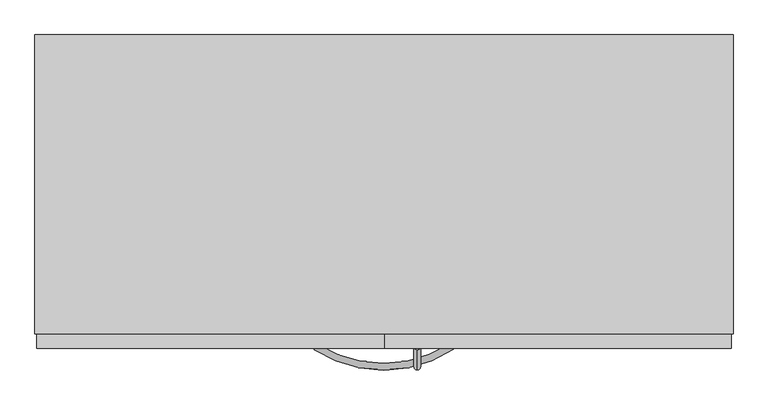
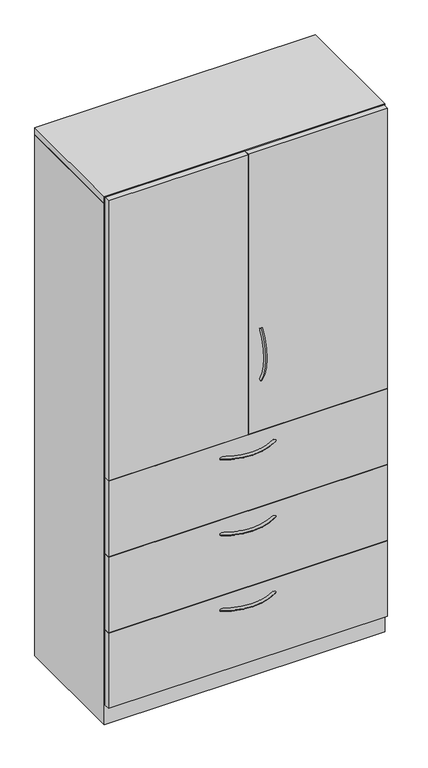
"""IFC4 building model written with IfcOpenShell, lengths in millimetres: furniture geometry, Steelcase - Universal Storage - Cabinet - Combination - Proud Steel : 83 1/2H - Hinged Doors/3 Drawers - 18 7/8D x 42W."""

from ifc_helpers import new_model, si_unit, point, frame, origin, place, context, project, spatial, polyline, circle_curve, ellipse_curve, trimmed, outline, extrude, faceted_brep, source, transform, mapped, element, save
from ifc_brep_helpers import plane_surface, revolved_surface, advanced_brep


def furniture_3395a8f8(model_context):
    return source(origin(), model_context, "Body", "SolidModel", [
        extrude(outline(polyline([(1063.6225413, -479.552), (3.1725353, -479.552), (3.1725353, -457.3261219), (1063.6225413, -457.3261219), (1063.6225413, -479.552)])), frame((0.0, 0.0, 77.724), z_axis=(0.0, 0.0, 1.0), x_axis=(1.0, 0.0, 0.0)), (0.0, 0.0, 1.0), 303.276),
        extrude(outline(polyline([(1063.6225413, -479.552), (3.1725353, -479.552), (3.1725353, -457.3261219), (1063.6225413, -457.3261219), (1063.6225413, -479.552)])), frame((0.0, 0.0, 382.524), z_axis=(0.0, 0.0, 1.0), x_axis=(1.0, 0.0, 0.0)), (0.0, 0.0, 1.0), 303.276),
        extrude(outline(polyline([(1063.6225413, -479.552), (3.1725353, -479.552), (3.1725353, -457.3261219), (1063.6225413, -457.3261219), (1063.6225413, -479.552)])), frame((0.0, 0.0, 687.3240349), z_axis=(0.0, 0.0, 1.0), x_axis=(1.0, 0.0, 0.0)), (0.0, 0.0, 1.0), 303.2759651),
        extrude(outline(polyline([(533.4, -479.552), (3.1725353, -479.552), (3.1725353, -457.3261219), (533.4, -457.3261219), (533.4, -479.552)])), frame((0.0, 0.0, 992.5062596), z_axis=(0.0, 0.0, 1.0), x_axis=(1.0, 0.0, 0.0)), (0.0, 0.0, 1.0), 1125.22),
        extrude(outline(polyline([(1063.6225413, -479.552), (534.9239992, -479.552), (534.9239992, -457.3261219), (1063.6225413, -457.3261219), (1063.6225413, -479.552)])), frame((0.0, 0.0, 992.5062596), z_axis=(0.0, 0.0, 1.0), x_axis=(1.0, 0.0, 0.0)), (0.0, 0.0, 1.0), 1125.22),
        advanced_brep(
        [(584.1682496, -481.5705994, 1404.643666), (584.1682496, -473.0108019, 1399.1705073), (584.1682496, -481.1337636, 1192.3367456), (584.1682496, -472.5965612, 1197.8450825)],
        [
            (0, 1, circle_curve(frame((584.1682496, -477.2907007, 1401.9070866), z_axis=(0.0, 0.5386967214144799, 0.842499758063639), x_axis=(0.0, 0.842499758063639, -0.5386967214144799)), 5.08)),
            (1, 0, circle_curve(frame((584.1682496, -477.2907007, 1401.9070866), z_axis=(0.0, 0.5386967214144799, 0.842499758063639), x_axis=(0.0, 0.842499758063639, -0.5386967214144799)), 5.08)),
            (2, 3, circle_curve(frame((584.1682496, -476.8651624, 1195.0909141), z_axis=(0.0, 0.5421591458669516, -0.8402758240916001), x_axis=(0.0, 0.8402758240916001, 0.5421591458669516)), 5.08)),
            (3, 2, circle_curve(frame((584.1682496, -476.8651624, 1195.0909141), z_axis=(0.0, 0.5421591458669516, -0.8402758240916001), x_axis=(0.0, 0.8402758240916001, 0.5421591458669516)), 5.08)),
            (3, 1, circle_curve(frame((584.1682496, -316.0827352, 1298.8302589), z_axis=(-1.0, 0.0, 0.0), x_axis=(0.0, -0.8424997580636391, 0.5386967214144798)), 186.2648211)),
            (0, 2, circle_curve(frame((584.1682496, -316.0827352, 1298.8302589), z_axis=(1.0, 0.0, 0.0), x_axis=(0.0, -0.8424997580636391, 0.5386967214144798)), 196.4248211)),
        ],
        [
            plane_surface(frame((584.9619996, -476.6365286, 1401.4888072), z_axis=(0.0, 0.5386967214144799, 0.8424997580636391), x_axis=(1.0, 0.0, 0.0))),
            plane_surface(frame((584.9619996, -476.2127171, 1195.511882), z_axis=(0.0, 0.5421591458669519, -0.8402758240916), x_axis=(1.0, 0.0, 0.0))),
            revolved_surface(trimmed(ellipse_curve(frame((584.1682496, -477.2907007, 1401.9070866), z_axis=(0.0, 0.5386967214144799, 0.842499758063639), x_axis=(0.0, 0.842499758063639, -0.5386967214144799)), 5.08, 5.08), [point((584.1682496, -481.5705994, 1404.643666))], [point((584.1682496, -473.0108019, 1399.1705073))], True, "CARTESIAN"), (584.9619996, -316.0827352, 1298.8302589), (1.0, 0.0, 0.0)),
            revolved_surface(trimmed(ellipse_curve(frame((584.1682496, -477.2907007, 1401.9070866), z_axis=(0.0, 0.5386967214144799, 0.842499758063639), x_axis=(0.0, 0.842499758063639, -0.5386967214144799)), 5.08, 5.08), [point((584.1682496, -473.0108019, 1399.1705073))], [point((584.1682496, -481.5705994, 1404.643666))], True, "CARTESIAN"), (584.9619996, -316.0827352, 1298.8302589), (1.0, 0.0, 0.0)),
        ],
        [
            (0, [[1, 2]]),
            (1, [[3, 4]]),
            (2, [[5, -1, 6, -4]]),
            (3, [[-6, -2, -5, -3]]),
        ],
    ),
        advanced_brep(
        [(426.8245932, -481.5705994, 323.56425), (432.2977519, -473.0108019, 323.56425), (639.1315136, -481.1337636, 323.56425), (633.6231767, -472.5965612, 323.56425)],
        [
            (0, 1, circle_curve(frame((429.5611726, -477.2907007, 323.56425), z_axis=(-0.8424997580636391, 0.5386967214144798, 0.0), x_axis=(0.5386967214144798, 0.8424997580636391, 0.0)), 5.08)),
            (1, 0, circle_curve(frame((429.5611726, -477.2907007, 323.56425), z_axis=(-0.8424997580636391, 0.5386967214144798, 0.0), x_axis=(0.5386967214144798, 0.8424997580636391, 0.0)), 5.08)),
            (2, 3, circle_curve(frame((636.3773452, -476.8651624, 323.56425), z_axis=(0.8402758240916, 0.5421591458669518, 0.0), x_axis=(-0.5421591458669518, 0.8402758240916, 0.0)), 5.08)),
            (3, 2, circle_curve(frame((636.3773452, -476.8651624, 323.56425), z_axis=(0.8402758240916, 0.5421591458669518, 0.0), x_axis=(-0.5421591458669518, 0.8402758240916, 0.0)), 5.08)),
            (3, 1, circle_curve(frame((532.6380004, -316.0827352, 323.56425), z_axis=(0.0, 0.0, -1.0), x_axis=(-0.5386967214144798, -0.8424997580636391, 0.0)), 186.2648211)),
            (0, 2, circle_curve(frame((532.6380004, -316.0827352, 323.56425), z_axis=(0.0, 0.0, 1.0), x_axis=(-0.5386967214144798, -0.8424997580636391, 0.0)), 196.4248211)),
        ],
        [
            plane_surface(frame((429.9794521, -476.6365286, 324.358), z_axis=(-0.8424997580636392, 0.5386967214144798, 0.0), x_axis=(0.0, 0.0, 1.0))),
            plane_surface(frame((635.9563772, -476.2127171, 324.358), z_axis=(0.8402758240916, 0.5421591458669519, 0.0), x_axis=(0.0, 0.0, 1.0))),
            revolved_surface(trimmed(ellipse_curve(frame((429.5611726, -477.2907007, 323.56425), z_axis=(-0.8424997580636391, 0.5386967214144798, 0.0), x_axis=(0.5386967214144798, 0.8424997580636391, 0.0)), 5.08, 5.08), [point((426.8245932, -481.5705994, 323.56425))], [point((432.2977519, -473.0108019, 323.56425))], True, "CARTESIAN"), (532.6380004, -316.0827352, 324.358), (0.0, 0.0, 1.0)),
            revolved_surface(trimmed(ellipse_curve(frame((429.5611726, -477.2907007, 323.56425), z_axis=(-0.8424997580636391, 0.5386967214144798, 0.0), x_axis=(0.5386967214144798, 0.8424997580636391, 0.0)), 5.08, 5.08), [point((432.2977519, -473.0108019, 323.56425))], [point((426.8245932, -481.5705994, 323.56425))], True, "CARTESIAN"), (532.6380004, -316.0827352, 324.358), (0.0, 0.0, 1.0)),
        ],
        [
            (0, [[1, 2]]),
            (1, [[3, 4]]),
            (2, [[5, -1, 6, -4]]),
            (3, [[-6, -2, -5, -3]]),
        ],
    ),
        advanced_brep(
        [(426.8245932, -481.5705994, 627.85625), (432.2977519, -473.0108019, 627.85625), (639.1315136, -481.1337636, 627.85625), (633.6231767, -472.5965612, 627.85625)],
        [
            (0, 1, circle_curve(frame((429.5611726, -477.2907007, 627.85625), z_axis=(-0.8424997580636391, 0.5386967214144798, 0.0), x_axis=(0.5386967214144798, 0.8424997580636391, 0.0)), 5.08)),
            (1, 0, circle_curve(frame((429.5611726, -477.2907007, 627.85625), z_axis=(-0.8424997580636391, 0.5386967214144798, 0.0), x_axis=(0.5386967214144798, 0.8424997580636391, 0.0)), 5.08)),
            (2, 3, circle_curve(frame((636.3773452, -476.8651624, 627.85625), z_axis=(0.8402758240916, 0.5421591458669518, 0.0), x_axis=(-0.5421591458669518, 0.8402758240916, 0.0)), 5.08)),
            (3, 2, circle_curve(frame((636.3773452, -476.8651624, 627.85625), z_axis=(0.8402758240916, 0.5421591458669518, 0.0), x_axis=(-0.5421591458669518, 0.8402758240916, 0.0)), 5.08)),
            (3, 1, circle_curve(frame((532.6380004, -316.0827352, 627.85625), z_axis=(0.0, 0.0, -1.0), x_axis=(-0.5386967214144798, -0.8424997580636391, 0.0)), 186.2648211)),
            (0, 2, circle_curve(frame((532.6380004, -316.0827352, 627.85625), z_axis=(0.0, 0.0, 1.0), x_axis=(-0.5386967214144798, -0.8424997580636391, 0.0)), 196.4248211)),
        ],
        [
            plane_surface(frame((429.9794521, -476.6365286, 628.65), z_axis=(-0.8424997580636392, 0.5386967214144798, 0.0), x_axis=(0.0, 0.0, 1.0))),
            plane_surface(frame((635.9563772, -476.2127171, 628.65), z_axis=(0.8402758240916, 0.5421591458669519, 0.0), x_axis=(0.0, 0.0, 1.0))),
            revolved_surface(trimmed(ellipse_curve(frame((429.5611726, -477.2907007, 627.85625), z_axis=(-0.8424997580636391, 0.5386967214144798, 0.0), x_axis=(0.5386967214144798, 0.8424997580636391, 0.0)), 5.08, 5.08), [point((426.8245932, -481.5705994, 627.85625))], [point((432.2977519, -473.0108019, 627.85625))], True, "CARTESIAN"), (532.6380004, -316.0827352, 628.65), (0.0, 0.0, 1.0)),
            revolved_surface(trimmed(ellipse_curve(frame((429.5611726, -477.2907007, 627.85625), z_axis=(-0.8424997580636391, 0.5386967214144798, 0.0), x_axis=(0.5386967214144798, 0.8424997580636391, 0.0)), 5.08, 5.08), [point((432.2977519, -473.0108019, 627.85625))], [point((426.8245932, -481.5705994, 627.85625))], True, "CARTESIAN"), (532.6380004, -316.0827352, 628.65), (0.0, 0.0, 1.0)),
        ],
        [
            (0, [[1, 2]]),
            (1, [[3, 4]]),
            (2, [[5, -1, 6, -4]]),
            (3, [[-6, -2, -5, -3]]),
        ],
    ),
        advanced_brep(
        [(426.8245932, -481.5705994, 932.65625), (432.2977519, -473.0108019, 932.65625), (639.1315136, -481.1337636, 932.65625), (633.6231767, -472.5965612, 932.65625)],
        [
            (0, 1, circle_curve(frame((429.5611726, -477.2907007, 932.65625), z_axis=(-0.8424997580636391, 0.5386967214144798, 0.0), x_axis=(0.5386967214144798, 0.8424997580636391, 0.0)), 5.08)),
            (1, 0, circle_curve(frame((429.5611726, -477.2907007, 932.65625), z_axis=(-0.8424997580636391, 0.5386967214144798, 0.0), x_axis=(0.5386967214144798, 0.8424997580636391, 0.0)), 5.08)),
            (2, 3, circle_curve(frame((636.3773452, -476.8651624, 932.65625), z_axis=(0.8402758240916, 0.5421591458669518, 0.0), x_axis=(-0.5421591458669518, 0.8402758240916, 0.0)), 5.08)),
            (3, 2, circle_curve(frame((636.3773452, -476.8651624, 932.65625), z_axis=(0.8402758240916, 0.5421591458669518, 0.0), x_axis=(-0.5421591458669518, 0.8402758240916, 0.0)), 5.08)),
            (3, 1, circle_curve(frame((532.6380004, -316.0827352, 932.65625), z_axis=(0.0, 0.0, -1.0), x_axis=(-0.5386967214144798, -0.8424997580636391, 0.0)), 186.2648211)),
            (0, 2, circle_curve(frame((532.6380004, -316.0827352, 932.65625), z_axis=(0.0, 0.0, 1.0), x_axis=(-0.5386967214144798, -0.8424997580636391, 0.0)), 196.4248211)),
        ],
        [
            plane_surface(frame((429.9794521, -476.6365286, 933.45), z_axis=(-0.8424997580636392, 0.5386967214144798, 0.0), x_axis=(0.0, 0.0, 1.0))),
            plane_surface(frame((635.9563772, -476.2127171, 933.45), z_axis=(0.8402758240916, 0.5421591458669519, 0.0), x_axis=(0.0, 0.0, 1.0))),
            revolved_surface(trimmed(ellipse_curve(frame((429.5611726, -477.2907007, 932.65625), z_axis=(-0.8424997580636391, 0.5386967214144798, 0.0), x_axis=(0.5386967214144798, 0.8424997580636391, 0.0)), 5.08, 5.08), [point((426.8245932, -481.5705994, 932.65625))], [point((432.2977519, -473.0108019, 932.65625))], True, "CARTESIAN"), (532.6380004, -316.0827352, 933.45), (0.0, 0.0, 1.0)),
            revolved_surface(trimmed(ellipse_curve(frame((429.5611726, -477.2907007, 932.65625), z_axis=(-0.8424997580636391, 0.5386967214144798, 0.0), x_axis=(0.5386967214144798, 0.8424997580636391, 0.0)), 5.08, 5.08), [point((432.2977519, -473.0108019, 932.65625))], [point((426.8245932, -481.5705994, 932.65625))], True, "CARTESIAN"), (532.6380004, -316.0827352, 933.45), (0.0, 0.0, 1.0)),
        ],
        [
            (0, [[1, 2]]),
            (1, [[3, 4]]),
            (2, [[5, -1, 6, -4]]),
            (3, [[-6, -2, -5, -3]]),
        ],
    ),
        faceted_brep([(25.4000008, -457.3261219, 76.2), (1041.4000242, -457.3261219, 76.2), (1041.4000242, -25.4000008, 76.2), (25.4000008, -25.4000008, 76.2), (1066.8, 0.0, 0.0), (1066.8, -457.3261219, 0.0), (0.0, -457.3261219, 0.0), (0.0, 0.0, 0.0), (0.0, 0.0, 2093.976), (1066.8, 0.0, 2093.976), (0.0, -457.3261219, 2093.976), (1066.8, -457.3261219, 2093.976), (1041.4000242, -457.3261219, 2093.976), (25.4000008, -457.3261219, 2093.976), (1041.4000242, -25.4000008, 2093.976), (25.4000008, -25.4000008, 2093.976)], [[[0, 1, 2, 3]], [[4, 5, 6, 7]], [[4, 7, 8, 9]], [[8, 7, 6, 10]], [[10, 6, 5, 11, 12, 1, 0, 13]], [[11, 5, 4, 9]], [[14, 12, 11, 9, 8, 10, 13, 15]], [[12, 14, 2, 1]], [[15, 13, 0, 3]], [[14, 15, 3, 2]]]),
        extrude(outline(polyline([(1066.8, 0.0), (1066.8, -457.3261219), (0.0, -457.3261219), (0.0, 0.0), (1066.8, 0.0)])), frame((0.0, 0.0, 2095.4999516), z_axis=(0.0, 0.0, 1.0), x_axis=(1.0, 0.0, 0.0)), (0.0, 0.0, 1.0), 25.4000484),
    ])


if __name__ == "__main__":
    model = new_model("IFC4")
    model_context = context("Model", 3, world=origin())
    ifc_project = project(units=[si_unit("LENGTHUNIT", "METRE", prefix="MILLI")], contexts=[model_context])
    site = spatial("IfcSite", under=ifc_project)
    building = spatial("IfcBuilding", under=site)
    placement = place(None, origin())
    furniture_shape = furniture_3395a8f8(model_context)
    element("IfcFurniture", 1, ObjectType="Steelcase - Universal Storage - Cabinet - Combination - Proud Steel : 83 1/2H - Hinged Doors/3 Drawers - 18 7/8D x 42W", at=placement, inside=building, context=model_context, shape_type="MappedRepresentation", body=[
        mapped(furniture_shape, transform((0.0, 0.0, 0.0), x_axis=(1.0, 0.0, 0.0), y_axis=(0.0, 1.0, 0.0), z_axis=(0.0, 0.0, 1.0))),
    ])
    save(model, "model.ifc")
